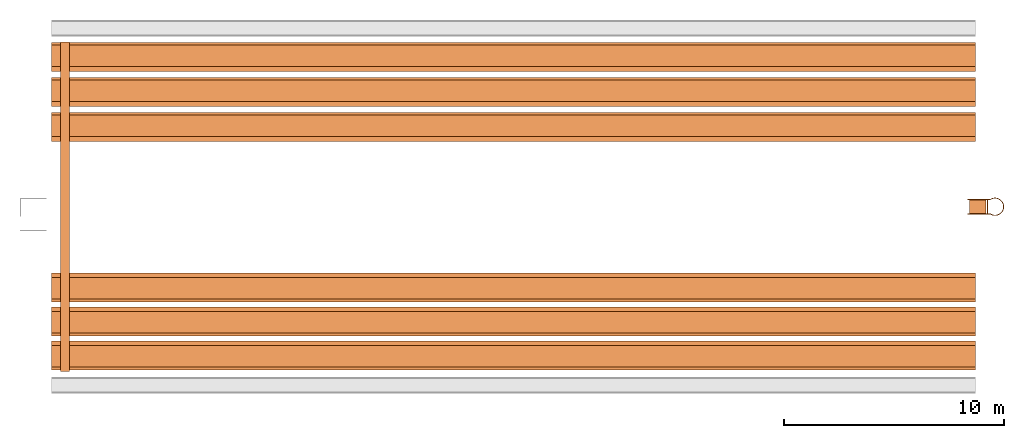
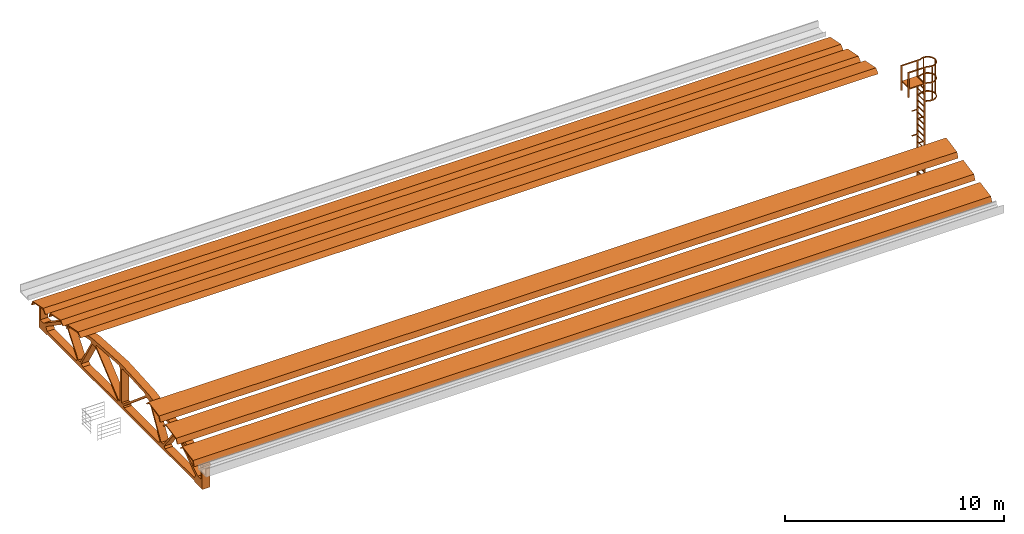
# One storey, part 3 of 3: 8 proxies.
"""IFC2X3 building model written with IfcOpenShell, lengths in millimetres."""

from ifc_helpers import new_model, entity, si_unit, converted_unit, derived_unit, direction, frame, frame_2d, origin, origin_2d_with_axis, place, context, subcontext, project, spatial, polyline, circle_curve, parameter, trimmed, segment, composite_curve, rectangle, outline, extrude, source, transform, mapped, material, type_object, type_shapes, element, save


model = new_model("IFC2X3")

# Units and contexts
model_context = context("Model", 3, precision=0.01, world=origin(), true_north=direction((6.12303176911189e-17, 1.0)))
body_context = subcontext(model_context, "Body", "Model", "MODEL_VIEW")
ifc_project = project(units=[si_unit("LENGTHUNIT", "METRE", prefix="MILLI"), si_unit("AREAUNIT", "SQUARE_METRE"), si_unit("VOLUMEUNIT", "CUBIC_METRE"), converted_unit("PLANEANGLEUNIT", "DEGREE", entity("IfcRatioMeasure", 0.0174532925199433), si_unit("PLANEANGLEUNIT", "RADIAN"), dimensions=[0, 0, 0, 0, 0, 0, 0]), si_unit("MASSUNIT", "GRAM", prefix="KILO"), derived_unit("MASSDENSITYUNIT", [(si_unit("MASSUNIT", "GRAM", prefix="KILO"), 1), (si_unit("LENGTHUNIT", "METRE"), -3)]), si_unit("TIMEUNIT", "SECOND"), si_unit("FREQUENCYUNIT", "HERTZ"), si_unit("THERMODYNAMICTEMPERATUREUNIT", "DEGREE_CELSIUS"), derived_unit("THERMALTRANSMITTANCEUNIT", [(si_unit("MASSUNIT", "GRAM", prefix="KILO"), 1), (si_unit("THERMODYNAMICTEMPERATUREUNIT", "KELVIN"), -1), (si_unit("TIMEUNIT", "SECOND"), -3)]), derived_unit("VOLUMETRICFLOWRATEUNIT", [(si_unit("LENGTHUNIT", "METRE"), 3), (si_unit("TIMEUNIT", "SECOND"), -1)]), si_unit("ELECTRICCURRENTUNIT", "AMPERE"), si_unit("ELECTRICVOLTAGEUNIT", "VOLT"), si_unit("POWERUNIT", "WATT"), si_unit("FORCEUNIT", "NEWTON", prefix="KILO"), si_unit("ILLUMINANCEUNIT", "LUX"), si_unit("LUMINOUSFLUXUNIT", "LUMEN"), si_unit("LUMINOUSINTENSITYUNIT", "CANDELA"), derived_unit("USERDEFINED", [(si_unit("MASSUNIT", "GRAM", prefix="KILO"), -1), (si_unit("LENGTHUNIT", "METRE"), -2), (si_unit("TIMEUNIT", "SECOND"), 3), (si_unit("LUMINOUSFLUXUNIT", "LUMEN"), 1)]), derived_unit("LINEARVELOCITYUNIT", [(si_unit("LENGTHUNIT", "METRE"), 1), (si_unit("TIMEUNIT", "SECOND"), -1)]), si_unit("PRESSUREUNIT", "PASCAL"), derived_unit("USERDEFINED", [(si_unit("LENGTHUNIT", "METRE"), -2), (si_unit("MASSUNIT", "GRAM", prefix="KILO"), 1), (si_unit("TIMEUNIT", "SECOND"), -2)])], contexts=[model_context])

# Site, building, storey
site_placement = place(None, origin())
site = spatial("IfcSite", under=ifc_project, at=site_placement, Name="表面", CompositionType="ELEMENT")
building_placement = place(site_placement, origin())
building = spatial("IfcBuilding", under=site, at=building_placement, CompositionType="ELEMENT")
storey_placement = place(building_placement, frame((0.0, 0.0, 8500.0)))
storey = spatial("IfcBuildingStorey", under=building, at=storey_placement, Name="8.500(标顶)", CompositionType="ELEMENT", Elevation=8500.0)

# Proxies
ifc_material_1 = material(Name="钢架")
building_element_proxy_type_1 = type_object("IfcBuildingElementProxyType", Name="钢架", PredefinedType="NOTDEFINED", material=ifc_material_1)
shared_shape_1 = source(origin(), body_context, "Body", "SweptSolid", [
    extrude(outline(polyline([(5365.60494768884, -5157.24800747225), (5456.9902216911, -5157.24800747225), (5582.8288750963, -5031.40935406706), (2734.74006467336, -808.944048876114), (1081.02925071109, 1073.38849692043), (-860.892399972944, 2779.45092503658), (-5023.76860027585, 5575.18812130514), (-5150.98625221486, 5447.97046936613), (-5149.60725368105, 5357.96419389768), (-5944.34309586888, 4563.22835170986), (-5473.86453543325, 4092.74979127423), (-5388.04612413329, 4092.74979127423), (4099.05525115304, -5394.35158401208), (4100.39054506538, -5481.50528922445), (4570.86910550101, -5951.98384966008), (5365.60494768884, -5157.24800747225)]), holes=[polyline([(2080.17644422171, -3019.41582292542), (1903.3815773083, -2969.47962047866), (-312.516618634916, -753.581424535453), (-307.696571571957, -667.767979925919), (2405.15225183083, -902.84956055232), (2566.25060345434, -1105.85622888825), (2080.17644422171, -3019.41582292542)]), polyline([(2410.67898297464, -804.454704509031), (-302.169840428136, -569.37312388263), (-396.501496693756, -475.041467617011), (895.303368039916, 816.763397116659), (1071.52445367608, 814.063489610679), (2415.65365014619, -715.888489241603), (2410.67898297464, -804.454704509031)]), polyline([(824.404150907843, 887.662614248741), (-467.400713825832, -404.142250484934), (-561.732370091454, -309.810594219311), (-796.813950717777, 2403.03822918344), (-708.247735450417, 2408.01289635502), (821.704243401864, 1063.8836998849), (824.404150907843, 887.662614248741)]), polyline([(-660.127226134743, -315.337325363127), (-745.940670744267, -320.157372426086), (-2961.8388666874, 1895.74082351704), (-3011.7750691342, 2072.53569043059), (-1098.215475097, 2558.60984966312), (-895.208806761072, 2397.5114980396), (-660.127226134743, -315.337325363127)]), polyline([(-1125.26669554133, 2654.38238910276), (-3038.8262895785, 2168.30822987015), (-3165.92863425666, 2295.41057454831), (-2966.18860298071, 3866.5253133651), (-2759.14425623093, 3833.98711637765), (-1152.70066928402, 2751.5100339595), (-1125.26669554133, 2654.38238910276)]), polyline([(5310.14502256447, -4946.12903504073), (5311.96128515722, -5064.67523160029), (4848.72490296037, -5527.91161379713), (4627.03739614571, -5306.22410698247), (4284.43096880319, -3510.00639039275), (4336.75773352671, -3501.57949816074), (5310.14502256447, -4946.12903504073)]), polyline([(4444.43004158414, -5222.45135972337), (4211.00422062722, -5277.1022637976), (2339.5189258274, -3405.61696899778), (2318.4499702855, -3271.55274477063), (3889.56470910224, -3071.8127134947), (4090.0993156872, -3364.76546537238), (4444.43004158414, -5222.45135972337)]), polyline([(3874.16606715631, -2973.82935677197), (2303.05132833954, -3173.5693880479), (2175.94898366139, -3046.46704336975), (2662.02314289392, -1132.90744933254), (2758.82600220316, -1160.24968649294), (3841.37881299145, -2765.20023012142), (3874.16606715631, -2973.82935677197)]), polyline([(-3263.91199097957, 2310.80921649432), (-3397.97621520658, 2331.87817203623), (-5269.4615100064, 4203.36346683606), (-5214.8106059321, 4436.78928779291), (-3357.12471158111, 4082.45856189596), (-3064.17195970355, 3881.92395531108), (-3263.91199097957, 2310.80921649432)]), polyline([(-3502.36563660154, 4276.79021501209), (-5298.58335319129, 4619.39664235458), (-5520.27086000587, 4841.08414916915), (-5057.03447780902, 5304.32053136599), (-4938.48828124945, 5302.50426877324), (-3493.93874436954, 4329.11697973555), (-3502.36563660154, 4276.79021501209)])]), frame((414.00813522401, -400.0, 976.595601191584), z_axis=(0.0, 1.0, 0.0), x_axis=(-0.707106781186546, 0.0, 0.707106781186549)), (0.0, 0.0, 1.0), 400.0),
])
type_shapes(building_element_proxy_type_1, [shared_shape_1])
proxy_1_placement = place(storey_placement, frame((-31628.798781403, 7701.08910112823, 0.0), z_axis=(0.0, 0.0, 1.0), x_axis=(0.0, 1.0, 0.0)))
element("IfcBuildingElementProxy", 1, at=proxy_1_placement, inside=storey, type_object=building_element_proxy_type_1, material=ifc_material_1, Name="钢架:钢架", ObjectType="钢架", context=body_context, shape_type="MappedRepresentation", body=[
    mapped(shared_shape_1, transform((0.0, 0.0, 0.0), scale=1.0)),
])
ifc_material_2 = material(Name="彩钢")
building_element_proxy_type_2 = type_object("IfcBuildingElementProxyType", Name="直爬梯", PredefinedType="NOTDEFINED", material=ifc_material_2)
shared_shape_2 = source(origin(), body_context, "Body", "SweptSolid", [
    extrude(rectangle(XDim=38.1000000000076, YDim=250.0, at=frame_2d((1.59872115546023e-14, -2.8421709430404e-14), x_axis=(1.0, 0.0))), frame((-323.849999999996, 245.0, 4125.0), z_axis=(0.0, 0.0, 1.0), x_axis=(-1.0, 0.0, 0.0)), (0.0, 0.0, 1.0), 49.9999999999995),
    extrude(rectangle(XDim=250.0, YDim=38.1000000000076, at=frame_2d((0.0, 1.59872115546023e-14), x_axis=(1.0, 0.0))), frame((323.849999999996, 245.0, 4125.0), z_axis=(0.0, 0.0, 1.0), x_axis=(0.0, -1.0, 0.0)), (0.0, 0.0, 1.0), 49.9999999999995),
    extrude(rectangle(XDim=38.1000000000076, YDim=250.0, at=frame_2d((1.59872115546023e-14, -2.8421709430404e-14), x_axis=(1.0, 0.0))), frame((-323.849999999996, 245.0, 2750.0), z_axis=(0.0, 0.0, 1.0), x_axis=(-1.0, 0.0, 0.0)), (0.0, 0.0, 1.0), 49.9999999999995),
    extrude(rectangle(XDim=250.0, YDim=38.1000000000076, at=frame_2d((0.0, 1.59872115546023e-14), x_axis=(1.0, 0.0))), frame((323.849999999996, 245.0, 2750.0), z_axis=(0.0, 0.0, 1.0), x_axis=(0.0, -1.0, 0.0)), (0.0, 0.0, 1.0), 49.9999999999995),
    extrude(rectangle(XDim=610.0, YDim=38.1000000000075, at=frame_2d((0.0, 6.75015598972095e-14), x_axis=(1.0, 0.0))), frame((0.200000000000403, 427.149999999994, 5619.44444444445), z_axis=(0.0, 0.0, 1.0), x_axis=(-1.0, 0.0, 0.0)), (0.0, 0.0, 1.0), 49.9999999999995),
    extrude(rectangle(XDim=610.0, YDim=38.1000000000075, at=frame_2d((0.0, 6.75015598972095e-14), x_axis=(1.0, 0.0))), frame((0.200000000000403, 427.149999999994, 5288.88888888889), z_axis=(0.0, 0.0, 1.0), x_axis=(-1.0, 0.0, 0.0)), (0.0, 0.0, 1.0), 49.9999999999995),
    extrude(rectangle(XDim=610.0, YDim=38.1000000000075, at=frame_2d((0.0, 6.75015598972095e-14), x_axis=(1.0, 0.0))), frame((0.200000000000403, 427.149999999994, 4958.33333333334), z_axis=(0.0, 0.0, 1.0), x_axis=(-1.0, 0.0, 0.0)), (0.0, 0.0, 1.0), 49.9999999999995),
    extrude(rectangle(XDim=610.0, YDim=38.1000000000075, at=frame_2d((0.0, 6.75015598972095e-14), x_axis=(1.0, 0.0))), frame((0.200000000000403, 427.149999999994, 4627.77777777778), z_axis=(0.0, 0.0, 1.0), x_axis=(-1.0, 0.0, 0.0)), (0.0, 0.0, 1.0), 49.9999999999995),
    extrude(rectangle(XDim=610.0, YDim=38.1000000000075, at=frame_2d((0.0, 6.75015598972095e-14), x_axis=(1.0, 0.0))), frame((0.200000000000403, 427.149999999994, 4297.22222222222), z_axis=(0.0, 0.0, 1.0), x_axis=(-1.0, 0.0, 0.0)), (0.0, 0.0, 1.0), 49.9999999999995),
    extrude(rectangle(XDim=610.0, YDim=38.1000000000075, at=frame_2d((0.0, 6.75015598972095e-14), x_axis=(1.0, 0.0))), frame((0.200000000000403, 427.149999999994, 3966.66666666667), z_axis=(0.0, 0.0, 1.0), x_axis=(-1.0, 0.0, 0.0)), (0.0, 0.0, 1.0), 49.9999999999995),
    extrude(rectangle(XDim=610.0, YDim=38.1000000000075, at=frame_2d((0.0, 6.75015598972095e-14), x_axis=(1.0, 0.0))), frame((0.200000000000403, 427.149999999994, 3636.11111111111), z_axis=(0.0, 0.0, 1.0), x_axis=(-1.0, 0.0, 0.0)), (0.0, 0.0, 1.0), 49.9999999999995),
    extrude(rectangle(XDim=38.1000000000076, YDim=250.0, at=frame_2d((1.59872115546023e-14, -2.8421709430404e-14), x_axis=(1.0, 0.0))), frame((-323.849999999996, 245.0, 1375.0), z_axis=(0.0, 0.0, 1.0), x_axis=(-1.0, 0.0, 0.0)), (0.0, 0.0, 1.0), 49.9999999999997),
    extrude(rectangle(XDim=250.0, YDim=38.1000000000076, at=frame_2d((0.0, 1.59872115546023e-14), x_axis=(1.0, 0.0))), frame((323.849999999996, 245.0, 1375.0), z_axis=(0.0, 0.0, 1.0), x_axis=(0.0, -1.0, 0.0)), (0.0, 0.0, 1.0), 49.9999999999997),
    extrude(rectangle(XDim=38.1000000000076, YDim=250.0, at=frame_2d((1.59872115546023e-14, -2.8421709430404e-14), x_axis=(1.0, 0.0))), frame((-323.849999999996, 245.0, 5500.0), z_axis=(0.0, 0.0, 1.0), x_axis=(-1.0, 0.0, 0.0)), (0.0, 0.0, 1.0), 49.9999999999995),
    extrude(rectangle(XDim=250.0, YDim=38.1000000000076, at=frame_2d((0.0, 1.59872115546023e-14), x_axis=(1.0, 0.0))), frame((323.849999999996, 245.0, 5500.0), z_axis=(0.0, 0.0, 1.0), x_axis=(0.0, -1.0, 0.0)), (0.0, 0.0, 1.0), 49.9999999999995),
    extrude(rectangle(XDim=38.1000000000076, YDim=250.0, at=frame_2d((1.59872115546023e-14, -2.8421709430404e-14), x_axis=(1.0, 0.0))), frame((-323.849999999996, 245.0, 0.0), z_axis=(0.0, 0.0, 1.0), x_axis=(-1.0, 0.0, 0.0)), (0.0, 0.0, 1.0), 49.9999999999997),
    extrude(rectangle(XDim=250.0, YDim=38.1000000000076, at=frame_2d((0.0, 1.59872115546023e-14), x_axis=(1.0, 0.0))), frame((323.849999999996, 245.0, 0.0), z_axis=(0.0, 0.0, 1.0), x_axis=(0.0, -1.0, 0.0)), (0.0, 0.0, 1.0), 49.9999999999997),
    extrude(rectangle(XDim=610.0, YDim=38.1000000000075, at=origin_2d_with_axis()), frame((0.200000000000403, 427.149999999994, 3305.55555555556), z_axis=(0.0, 0.0, 1.0), x_axis=(-1.0, 0.0, 0.0)), (0.0, 0.0, 1.0), 49.9999999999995),
    extrude(rectangle(XDim=610.0, YDim=38.1000000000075, at=origin_2d_with_axis()), frame((0.200000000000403, 427.149999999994, 2975.0), z_axis=(0.0, 0.0, 1.0), x_axis=(-1.0, 0.0, 0.0)), (0.0, 0.0, 1.0), 49.9999999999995),
    extrude(rectangle(XDim=610.0, YDim=38.1000000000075, at=origin_2d_with_axis()), frame((0.200000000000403, 427.149999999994, 2644.44444444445), z_axis=(0.0, 0.0, 1.0), x_axis=(-1.0, 0.0, 0.0)), (0.0, 0.0, 1.0), 49.9999999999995),
    extrude(rectangle(XDim=610.0, YDim=38.1000000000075, at=origin_2d_with_axis()), frame((0.200000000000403, 427.149999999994, 2313.88888888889), z_axis=(0.0, 0.0, 1.0), x_axis=(-1.0, 0.0, 0.0)), (0.0, 0.0, 1.0), 49.9999999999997),
    extrude(rectangle(XDim=610.0, YDim=38.1000000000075, at=frame_2d((0.0, -6.75015598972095e-14), x_axis=(1.0, 0.0))), frame((0.200000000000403, 427.149999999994, 1983.33333333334), z_axis=(0.0, 0.0, 1.0), x_axis=(-1.0, 0.0, 0.0)), (0.0, 0.0, 1.0), 49.9999999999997),
    extrude(rectangle(XDim=610.0, YDim=38.1000000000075, at=frame_2d((0.0, -6.75015598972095e-14), x_axis=(1.0, 0.0))), frame((0.200000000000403, 427.149999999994, 1652.77777777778), z_axis=(0.0, 0.0, 1.0), x_axis=(-1.0, 0.0, 0.0)), (0.0, 0.0, 1.0), 49.9999999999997),
    extrude(rectangle(XDim=610.0, YDim=38.1000000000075, at=origin_2d_with_axis()), frame((0.200000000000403, 427.149999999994, 1322.22222222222), z_axis=(0.0, 0.0, 1.0), x_axis=(-1.0, 0.0, 0.0)), (0.0, 0.0, 1.0), 49.9999999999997),
    extrude(rectangle(XDim=610.0, YDim=38.1000000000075, at=origin_2d_with_axis()), frame((0.200000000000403, 427.149999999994, 991.666666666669), z_axis=(0.0, 0.0, 1.0), x_axis=(-1.0, 0.0, 0.0)), (0.0, 0.0, 1.0), 49.9999999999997),
    extrude(rectangle(XDim=610.0, YDim=38.1000000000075, at=origin_2d_with_axis()), frame((0.200000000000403, 427.149999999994, 661.111111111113), z_axis=(0.0, 0.0, 1.0), x_axis=(-1.0, 0.0, 0.0)), (0.0, 0.0, 1.0), 49.9999999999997),
    extrude(rectangle(XDim=610.0, YDim=38.1000000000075, at=frame_2d((0.0, 6.75015598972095e-14), x_axis=(1.0, 0.0))), frame((0.200000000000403, 427.149999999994, 330.555555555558), z_axis=(0.0, 0.0, 1.0), x_axis=(-1.0, 0.0, 0.0)), (0.0, 0.0, 1.0), 49.9999999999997),
    extrude(rectangle(XDim=610.0, YDim=38.1000000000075, at=origin_2d_with_axis()), frame((0.199999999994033, 427.149999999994, 5950.0), z_axis=(0.0, 0.0, 1.0), x_axis=(-1.0, 0.0, 0.0)), (0.0, 0.0, 1.0), 49.9999999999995),
    extrude(rectangle(XDim=610.0, YDim=38.1000000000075, at=frame_2d((0.0, 6.75015598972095e-14), x_axis=(1.0, 0.0))), frame((0.200000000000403, 427.149999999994, 0.0), z_axis=(0.0, 0.0, 1.0), x_axis=(-1.0, 0.0, 0.0)), (0.0, 0.0, 1.0), 49.9999999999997),
    extrude(outline(composite_curve([segment(trimmed(circle_curve(frame_2d((0.0, 271.706393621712), x_axis=(1.0, 0.0)), 409.922498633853), [parameter(326.772309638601)], [parameter(213.227690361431)], True, "PARAMETER"), True, "CONTINUOUS"), segment(polyline([(-342.900000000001, 47.0821632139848), (-342.899999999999, -52.9178367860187)]), True, "CONTINUOUS"), segment(polyline([(-342.899999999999, -52.9178367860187), (-304.800000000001, -52.9178367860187)]), True, "CONTINUOUS"), segment(polyline([(-304.800000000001, -52.9178367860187), (-304.800000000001, 58.7535103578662)]), True, "CONTINUOUS"), segment(trimmed(circle_curve(frame_2d((0.0, 271.706393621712), x_axis=(1.0, 0.0)), 371.822498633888), [parameter(325.059373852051)], [parameter(214.940626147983)], True, "PARAMETER"), False, "CONTINUOUS"), segment(polyline([(304.800000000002, 58.7535103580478), (304.8, -52.9178367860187)]), True, "CONTINUOUS"), segment(polyline([(304.8, -52.9178367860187), (342.900000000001, -52.9178367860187)]), True, "CONTINUOUS"), segment(polyline([(342.900000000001, -52.9178367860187), (342.900000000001, 47.0821632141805)]), True, "CONTINUOUS")], self_intersect=False)), frame((0.0, 499.117836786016, 4936.49999999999)), (0.0, 0.0, 1.0), 63.5000000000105),
    extrude(rectangle(XDim=916.199999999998, YDim=38.0999999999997, at=origin_2d_with_axis()), frame((323.85, -11.9000000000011, 6836.5), z_axis=(0.0, 0.0, 1.0), x_axis=(0.0, 1.0, 0.0)), (0.0, 0.0, 1.0), 63.5000000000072),
    extrude(rectangle(XDim=916.199999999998, YDim=38.1000000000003, at=frame_2d((0.0, -1.77635683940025e-14), x_axis=(1.0, 0.0))), frame((-323.85, -11.9000000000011, 6836.5), z_axis=(0.0, 0.0, 1.0), x_axis=(0.0, 1.0, 0.0)), (0.0, 0.0, 1.0), 63.5000000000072),
    extrude(rectangle(XDim=916.199999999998, YDim=38.0999999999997, at=origin_2d_with_axis()), frame((323.85, -11.9000000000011, 5936.49999999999), z_axis=(0.0, 0.0, 1.0), x_axis=(0.0, 1.0, 0.0)), (0.0, 0.0, 1.0), 63.5000000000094),
    extrude(rectangle(XDim=916.199999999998, YDim=38.0999999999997, at=origin_2d_with_axis()), frame((-323.849999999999, -11.9000000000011, 5936.49999999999), z_axis=(0.0, 0.0, 1.0), x_axis=(0.0, 1.0, 0.0)), (0.0, 0.0, 1.0), 63.5000000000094),
    extrude(rectangle(XDim=609.6, YDim=763.8, at=origin_2d_with_axis()), frame((0.0, -11.8999999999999, 5936.49999999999), z_axis=(0.0, 0.0, 1.0), x_axis=(-1.0, 0.0, 0.0)), (0.0, 0.0, 1.0), 63.5000000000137),
    extrude(rectangle(XDim=38.1000000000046, YDim=50.8000000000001, at=origin_2d_with_axis()), frame((390.872498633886, 770.824230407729, 5000.0), z_axis=(0.0, 0.0, 1.0), x_axis=(-1.0, 0.0, 0.0)), (0.0, 0.0, 1.0), 1836.5),
    extrude(rectangle(XDim=38.0999999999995, YDim=50.8000000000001, at=frame_2d((-3.37507799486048e-14, 0.0), x_axis=(1.0, 0.0))), frame((-390.872498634, 770.824230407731, 5000.0), z_axis=(0.0, 0.0, 1.0), x_axis=(-1.0, 0.0, 0.0)), (0.0, 0.0, 1.0), 1836.5),
    extrude(rectangle(XDim=50.8000000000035, YDim=38.1, at=origin_2d_with_axis()), frame((-0.71886980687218, 1160.11300327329, 5000.0), z_axis=(0.0, 0.0, 1.0), x_axis=(-1.0, 0.0, 0.0)), (0.0, 0.0, 1.0), 1836.5),
    extrude(rectangle(XDim=38.1000000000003, YDim=76.1999999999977, at=origin_2d_with_axis()), frame((323.85, 408.099999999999, 0.0), z_axis=(0.0, 0.0, 1.0), x_axis=(-1.0, 0.0, 0.0)), (0.0, 0.0, 1.0), 6836.5),
    extrude(rectangle(XDim=38.1000000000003, YDim=76.1999999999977, at=origin_2d_with_axis()), frame((-323.85, 408.099999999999, 0.0), z_axis=(0.0, 0.0, 1.0), x_axis=(-1.0, 0.0, 0.0)), (0.0, 0.0, 1.0), 6836.5),
    extrude(rectangle(XDim=38.0999999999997, YDim=76.2, at=origin_2d_with_axis()), frame((323.85, -431.9, 5500.0), z_axis=(0.0, 0.0, 1.0), x_axis=(-1.0, 0.0, 0.0)), (0.0, 0.0, 1.0), 1336.5),
    extrude(rectangle(XDim=38.1000000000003, YDim=76.2, at=frame_2d((-1.77635683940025e-14, 0.0), x_axis=(1.0, 0.0))), frame((-323.85, -431.9, 5500.0), z_axis=(0.0, 0.0, 1.0), x_axis=(-1.0, 0.0, 0.0)), (0.0, 0.0, 1.0), 1336.5),
    extrude(outline(composite_curve([segment(trimmed(circle_curve(frame_2d((0.0, 271.706393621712), x_axis=(1.0, 0.0)), 409.922498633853), [parameter(326.772309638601)], [parameter(213.227690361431)], True, "PARAMETER"), True, "CONTINUOUS"), segment(polyline([(-342.900000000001, 47.0821632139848), (-342.899999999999, -52.9178367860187)]), True, "CONTINUOUS"), segment(polyline([(-342.899999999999, -52.9178367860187), (-304.800000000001, -52.9178367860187)]), True, "CONTINUOUS"), segment(polyline([(-304.800000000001, -52.9178367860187), (-304.800000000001, 58.7535103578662)]), True, "CONTINUOUS"), segment(trimmed(circle_curve(frame_2d((0.0, 271.706393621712), x_axis=(1.0, 0.0)), 371.822498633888), [parameter(325.059373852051)], [parameter(214.940626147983)], True, "PARAMETER"), False, "CONTINUOUS"), segment(polyline([(304.800000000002, 58.7535103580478), (304.8, -52.9178367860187)]), True, "CONTINUOUS"), segment(polyline([(304.8, -52.9178367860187), (342.900000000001, -52.9178367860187)]), True, "CONTINUOUS"), segment(polyline([(342.900000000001, -52.9178367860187), (342.900000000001, 47.0821632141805)]), True, "CONTINUOUS")], self_intersect=False)), frame((0.0, 499.117836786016, 5936.49999999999)), (0.0, 0.0, 1.0), 63.5000000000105),
    extrude(outline(composite_curve([segment(polyline([(-47.0821632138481, -342.899999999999), (52.917836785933, -342.899999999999)]), True, "CONTINUOUS"), segment(polyline([(52.917836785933, -342.899999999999), (52.917836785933, -304.799999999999)]), True, "CONTINUOUS"), segment(polyline([(52.917836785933, -304.799999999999), (-58.7535103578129, -304.800000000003)]), True, "CONTINUOUS"), segment(trimmed(circle_curve(frame_2d((-271.706393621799, 0.0), x_axis=(0.0, 1.0)), 371.822498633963), [parameter(325.059373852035)], [parameter(214.940626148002)], True, "PARAMETER"), False, "CONTINUOUS"), segment(polyline([(-58.7535103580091, 304.800000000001), (52.917836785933, 304.800000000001)]), True, "CONTINUOUS"), segment(polyline([(52.917836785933, 304.800000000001), (52.917836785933, 342.900000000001)]), True, "CONTINUOUS"), segment(polyline([(52.917836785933, 342.900000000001), (-47.0821632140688, 342.899999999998)]), True, "CONTINUOUS"), segment(trimmed(circle_curve(frame_2d((-271.706393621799, 0.0), x_axis=(0.0, 1.0)), 409.922498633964), [parameter(326.772309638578)], [parameter(213.227690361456)], True, "PARAMETER"), True, "CONTINUOUS")], self_intersect=False)), frame((0.0, 499.117836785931, 6836.5), z_axis=(0.0, 0.0, 1.0), x_axis=(0.0, -1.0, 0.0)), (0.0, 0.0, 1.0), 63.5000000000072),
])
type_shapes(building_element_proxy_type_2, [shared_shape_2])
proxy_2_placement = place(storey_placement, frame((10091.201218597, 8109.69740738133, -2436.49999999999), z_axis=(0.0, 0.0, 1.0), x_axis=(0.0, -1.0, 0.0)))
element("IfcBuildingElementProxy", 2, at=proxy_2_placement, inside=storey, type_object=building_element_proxy_type_2, material=ifc_material_2, Name="直爬梯:直爬梯", ObjectType="直爬梯", context=body_context, shape_type="MappedRepresentation", body=[
    mapped(shared_shape_2, transform((0.0, 0.0, 0.0), scale=1.0)),
])
proxy_3_placement = place(storey_placement, origin())
element("IfcBuildingElementProxy", 3, at=proxy_3_placement, inside=storey, Name="封檐板:屋面支撑", ObjectType="封檐板:屋面支撑", context=body_context, shape_type="SweptSolid", body=[
    extrude(outline(polyline([(-500.0, -137.872806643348), (500.0, -137.872806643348), (672.072930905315, 107.872806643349), (598.826455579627, 107.872806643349), (468.765976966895, -77.872806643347), (-468.765976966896, -77.8728066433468), (-598.826455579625, 107.87280664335), (-672.072930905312, 107.87280664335), (-500.0, -137.872806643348)])), frame((-32028.798781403, 14945.4114229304, 1624.52701044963), z_axis=(1.0, 0.0, 0.0), x_axis=(0.0, -0.981793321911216, 0.189952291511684)), (0.0, 0.0, 1.0), 42000.0),
])
proxy_4_placement = place(storey_placement, origin())
element("IfcBuildingElementProxy", 4, at=proxy_4_placement, inside=storey, Name="封檐板:屋面支撑", ObjectType="封檐板:屋面支撑", context=body_context, shape_type="SweptSolid", body=[
    extrude(outline(polyline([(-500.0, -137.872806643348), (500.0, -137.872806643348), (672.072930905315, 107.872806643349), (598.826455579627, 107.872806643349), (468.765976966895, -77.872806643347), (-468.765976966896, -77.8728066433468), (-598.826455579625, 107.87280664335), (-672.072930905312, 107.87280664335), (-500.0, -137.872806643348)])), frame((-32028.798781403, 11763.121425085, 2240.22001207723), z_axis=(1.0, 0.0, 0.0), x_axis=(0.0, -0.981793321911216, 0.189952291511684)), (0.0, 0.0, 1.0), 42000.0),
])
proxy_5_placement = place(storey_placement, origin())
element("IfcBuildingElementProxy", 5, at=proxy_5_placement, inside=storey, Name="封檐板:屋面支撑", ObjectType="封檐板:屋面支撑", context=body_context, shape_type="SweptSolid", body=[
    extrude(outline(polyline([(-500.0, -137.872806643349), (500.0, -137.872806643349), (672.072930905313, 107.872806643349), (598.826455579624, 107.872806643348), (468.765976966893, -77.8728066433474), (-468.765976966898, -77.8728066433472), (-598.826455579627, 107.87280664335), (-672.072930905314, 107.87280664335), (-500.0, -137.872806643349)])), frame((-32028.798781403, 13354.2664240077, 1932.37351126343), z_axis=(1.0, 0.0, 0.0), x_axis=(0.0, -0.981793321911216, 0.189952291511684)), (0.0, 0.0, 1.0), 42000.0),
])
proxy_6_placement = place(storey_placement, origin())
element("IfcBuildingElementProxy", 6, at=proxy_6_placement, inside=storey, Name="封檐板:屋面支撑", ObjectType="封檐板:屋面支撑", context=body_context, shape_type="SweptSolid", body=[
    extrude(outline(polyline([(173.849426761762, -488.656615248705), (473.849426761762, -488.656615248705), (431.836974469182, -428.656615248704), (205.083449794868, -428.656615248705), (-332.662787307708, 339.324601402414), (-255.108514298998, 552.403215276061), (-297.12096659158, 612.40321527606), (-399.727009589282, 330.495429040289), (173.849426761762, -488.656615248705)])), frame((-32028.798781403, 1330.7654946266, 1635.51291787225), z_axis=(1.0, 0.0, 0.0), x_axis=(0.0, -0.407533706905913, -0.913190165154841)), (0.0, 0.0, 1.0), 42000.0),
])
proxy_7_placement = place(storey_placement, origin())
element("IfcBuildingElementProxy", 7, at=proxy_7_placement, inside=storey, Name="封檐板:屋面支撑", ObjectType="封檐板:屋面支撑", context=body_context, shape_type="SweptSolid", body=[
    extrude(outline(polyline([(173.84942676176, -488.656615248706), (473.849426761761, -488.656615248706), (431.83697446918, -428.656615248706), (205.083449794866, -428.656615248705), (-332.66278730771, 339.324601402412), (-255.108514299, 552.403215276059), (-297.120966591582, 612.403215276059), (-399.727009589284, 330.495429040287), (173.84942676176, -488.656615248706)])), frame((-32028.798781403, 4424.15607511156, 2234.00612025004), z_axis=(1.0, 0.0, 0.0), x_axis=(0.0, -0.407533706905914, -0.913190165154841)), (0.0, 0.0, 1.0), 42000.0),
])
proxy_8_placement = place(storey_placement, origin())
element("IfcBuildingElementProxy", 8, at=proxy_8_placement, inside=storey, Name="封檐板:屋面支撑", ObjectType="封檐板:屋面支撑", context=body_context, shape_type="SweptSolid", body=[
    extrude(outline(polyline([(173.849426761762, -488.656615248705), (473.849426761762, -488.656615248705), (431.836974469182, -428.656615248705), (205.083449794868, -428.656615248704), (-332.662787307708, 339.324601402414), (-255.108514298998, 552.403215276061), (-297.12096659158, 612.40321527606), (-399.727009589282, 330.495429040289), (173.849426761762, -488.656615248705)])), frame((-32028.798781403, 2877.46078486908, 1934.75951906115), z_axis=(1.0, 0.0, 0.0), x_axis=(0.0, -0.407533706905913, -0.913190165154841)), (0.0, 0.0, 1.0), 42000.0),
])

save(model, "model.ifc")
